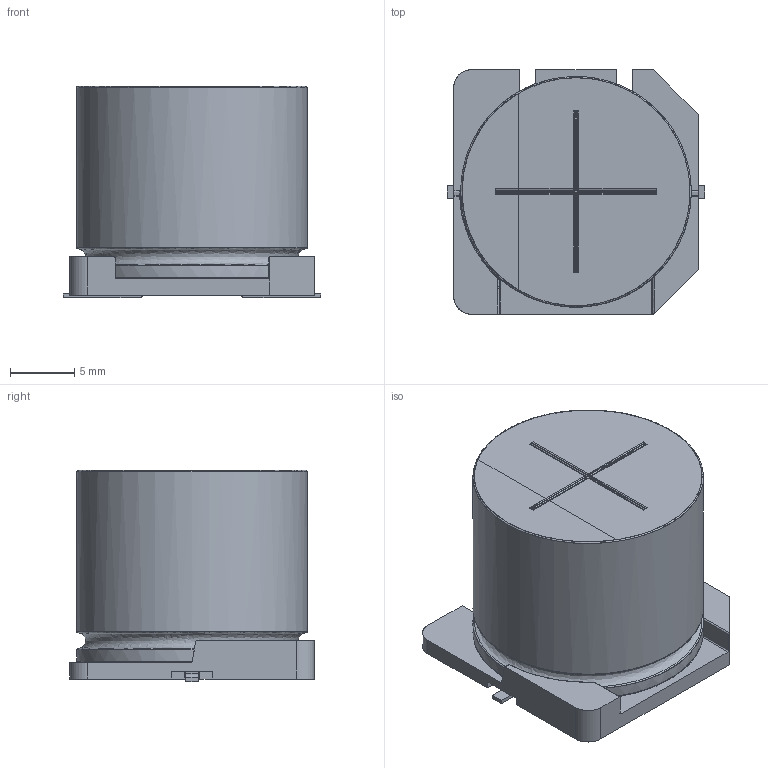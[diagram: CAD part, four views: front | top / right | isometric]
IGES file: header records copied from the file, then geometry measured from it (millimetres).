
Start section: JAMA-IS VERSION  1.0
Bounding box: 20.1 x 19.1 x 16.5 mm (x, y, z)
Surface area: 2417 mm2 (no closed solid volume)
Topology: 0 solids, 0 shells, 146 faces, 1364 edges, 1341 vertices
Faces by surface type: bspline 146
